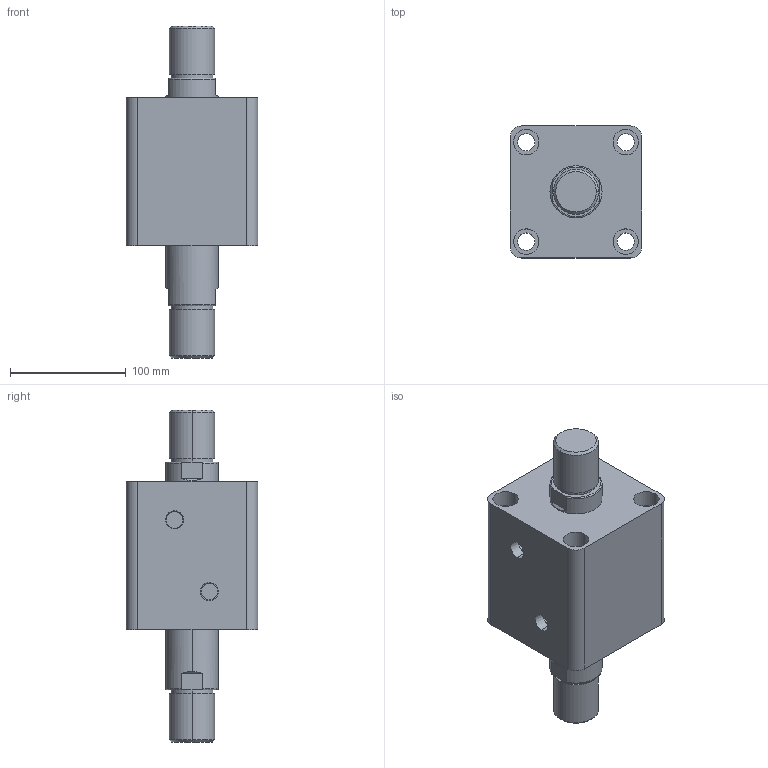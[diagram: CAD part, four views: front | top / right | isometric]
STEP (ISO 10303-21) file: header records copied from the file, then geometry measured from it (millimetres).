
FILE_DESCRIPTION (( 'STEP AP203' ), '1' );
FILE_NAME ('HTB-SW80-35W.STEP', '2019-10-07T10:22:00', ( '微软用户' ), ( '微软中国' ), 'SwSTEP 2.0', 'SolidWorks 2012', '' );
FILE_SCHEMA (( 'CONFIG_CONTROL_DESIGN' ));
Length unit declared in the file: millimetre
Products named in the file (3): HTB-SW80-35W; HTB-SW80-35W活塞杆; HTB-SW80-35掛极
Assembly tree (2 placements, depth 2):
  HTB-SW80-35W
    HTB-SW80-35掛极
    HTB-SW80-35W活塞杆
Bounding box: 114 x 114 x 287 mm (x, y, z)
Volume: 1627391.6 mm3; surface area: 190019.9 mm2
Topology: 2 solids, 2 shells, 108 faces, 240 edges, 156 vertices
Faces by surface type: cylinder 52, plane 36, torus 12, cone 8
Entity records: 3449 total; most frequent: CARTESIAN_POINT 629, DIRECTION 586, ORIENTED_EDGE 480, AXIS2_PLACEMENT_3D 249, EDGE_CURVE 240, VERTEX_POINT 156, EDGE_LOOP 138, CIRCLE 136
